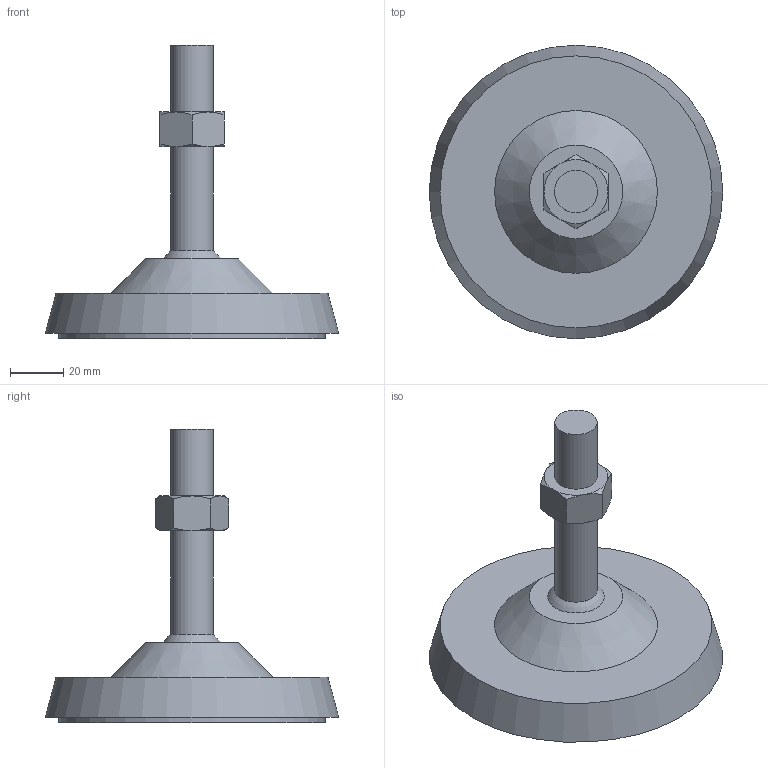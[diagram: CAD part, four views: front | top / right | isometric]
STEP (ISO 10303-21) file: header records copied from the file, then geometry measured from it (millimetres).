
FILE_DESCRIPTION(/* description */ ('山久'),/* implementation_level */ '2;1');
FILE_NAME(/* name */ 'C:\Users\Fujimoto-s\OneDrive\Inventor\WorkSpace\\X2\305D306E4ED6\X0\\ホームページ用\\X2\30C030A630F330ED30FC30C97D206750\X0\\コンベヤ部品\31017456\31017456.stp',/* time_stamp */ '2024-08-08T15:47:30+09:00',/* author */ ('Fujimoto-s'),/* organization */ (''),/* preprocessor_version */ 'ST-DEVELOPER v15.2',/* originating_system */ 'Autodesk Inventor 2014',/* authorisation */ '');
FILE_SCHEMA (('AUTOMOTIVE_DESIGN { 1 0 10303 214 3 1 1 }'));
Length unit declared in the file: millimetre
Products named in the file (1): 31017456
Bounding box: 110 x 110 x 110 mm (x, y, z)
Volume: 192379.2 mm3; surface area: 29207.4 mm2
Topology: 1 solids, 1 shells, 32 faces, 62 edges, 38 vertices
Faces by surface type: cone 14, plane 14, cylinder 3, sphere 1
Full cylindrical faces by diameter (mm): 16 x2, 100 x1
Entity records: 778 total; most frequent: CARTESIAN_POINT 171, DIRECTION 120, ORIENTED_EDGE 108, AXIS2_PLACEMENT_3D 57, EDGE_CURVE 54, EDGE_LOOP 44, VERTEX_POINT 36, ADVANCED_FACE 32
